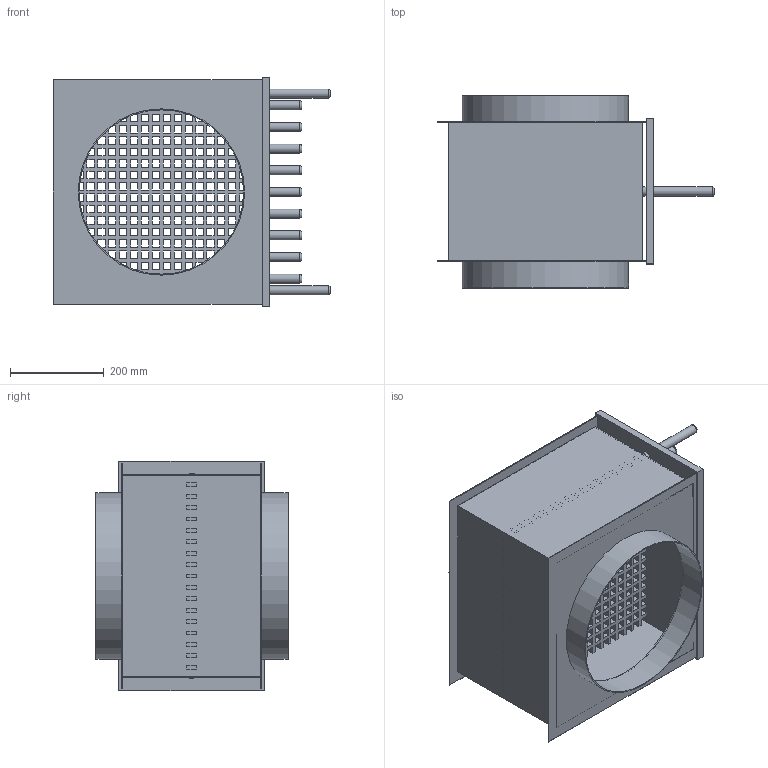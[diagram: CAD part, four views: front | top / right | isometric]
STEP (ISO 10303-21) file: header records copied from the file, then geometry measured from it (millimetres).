
FILE_DESCRIPTION(/* description */ (''),/* implementation_level */ '2;1');
FILE_NAME(/* name */ 'Z:\Output\WHR 355-08790-003.stp',/* time_stamp */ '2017-05-05T18:49:28+02:00',/* author */ ('jayeshpanchal'),/* organization */ (''),/* preprocessor_version */ 'ST-DEVELOPER v16.5',/* originating_system */ 'Autodesk Inventor 2017',/* authorisation */ '');
FILE_SCHEMA (('AUTOMOTIVE_DESIGN { 1 0 10303 214 3 1 1 }'));
Length unit declared in the file: millimetre
Products named in the file (1): WHRR-1
Bounding box: 591.62 x 410 x 490 mm (x, y, z)
Volume: 6259462.5 mm3; surface area: 2659466.5 mm2
Topology: 1 solids, 1 shells, 1304 faces, 4066 edges, 2713 vertices
Faces by surface type: plane 1267, cylinder 26, bspline 11
Full cylindrical faces by diameter (mm): 19.05 x22, 351 x2, 355 x2
Entity records: 45770 total; most frequent: CARTESIAN_POINT 8362, ORIENTED_EDGE 8076, DIRECTION 6702, EDGE_CURVE 4038, LINE 3940, VECTOR 3940, VERTEX_POINT 2711, EDGE_LOOP 1951
